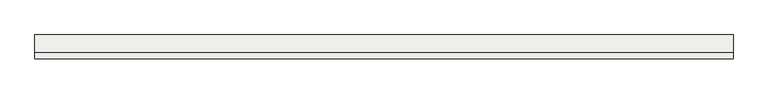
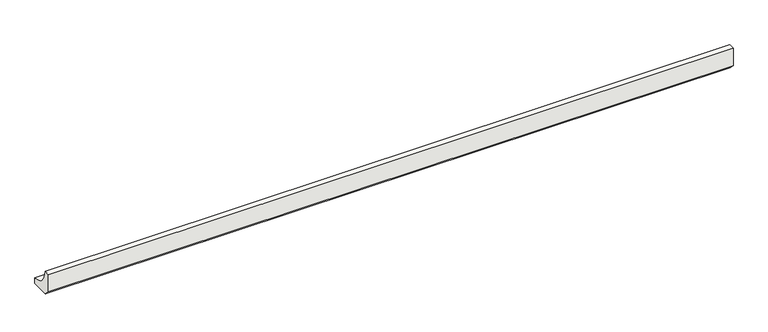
"""IFC4 building model written with IfcOpenShell, lengths in millimetres: slab geometry, ROSA GRES_188 : Pieza 188_Tao_Beige_Liso."""

from ifc_helpers import new_model, si_unit, point, frame, frame_2d, origin, place, context, project, spatial, polyline, circle_curve, trimmed, segment, composite_curve, outline, extrude, source, transform, mapped, element, save


def slab_ee8387c9(model_context):
    return source(origin(), model_context, "Body", "SweptSolid", [
        extrude(outline(composite_curve([segment(polyline([(0.0, 8.7114978), (0.0, 40.0), (9.9734114, 40.0)]), True, "CONTINUOUS"), segment(trimmed(circle_curve(frame_2d((39.9955547, 39.9955547)), 30.0221435), [point((9.9734114, 40.0))], [point((40.0, 9.9734114))], True, "CARTESIAN"), True, "CONTINUOUS"), segment(polyline([(40.0, 9.9734114), (40.0, 0.0), (8.7114978, 0.0), (0.0, 8.7114978)]), True, "CONTINUOUS")], self_intersect=False)), frame((0.0, 0.0, 0.0), z_axis=(1.0, 0.0, 0.0), x_axis=(0.0, 1.0, 0.0)), (0.0, 0.0, 1.0), 1170.0),
    ])


if __name__ == "__main__":
    model = new_model("IFC4")
    model_context = context("Model", 3, world=origin())
    ifc_project = project(units=[si_unit("LENGTHUNIT", "METRE", prefix="MILLI")], contexts=[model_context])
    site = spatial("IfcSite", under=ifc_project)
    building = spatial("IfcBuilding", under=site)
    placement = place(None, origin())
    slab_shape = slab_ee8387c9(model_context)
    element("IfcSlab", 1, ObjectType="ROSA GRES_188 : Pieza 188_Tao_Beige_Liso", at=placement, inside=building, context=model_context, shape_type="MappedRepresentation", body=[
        mapped(slab_shape, transform((0.0, 0.0, 0.0), x_axis=(1.0, 0.0, 0.0), y_axis=(0.0, 1.0, 0.0), z_axis=(0.0, 0.0, 1.0))),
    ])
    save(model, "model.ifc")
